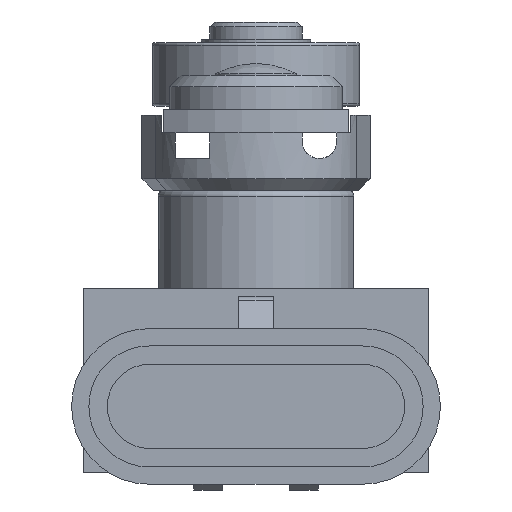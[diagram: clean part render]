
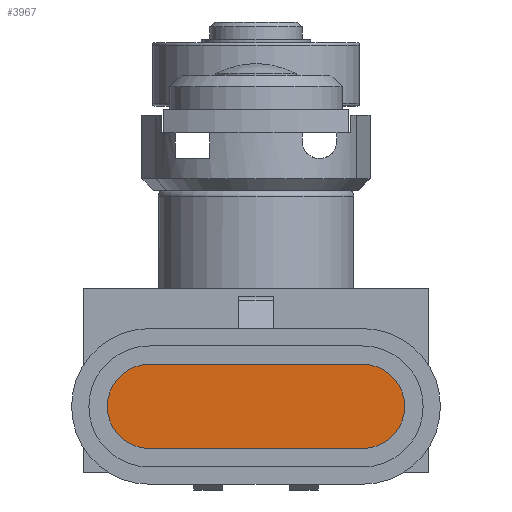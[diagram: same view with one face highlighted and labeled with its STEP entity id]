
A CAD part, front view. The second image highlights one B-rep face of the part: STEP entity #3967.
In plain terms, the highlighted planar face has unit normal (0, -1, 0) as drawn and (0, 0, -1) by its records, which use the part's own axes.
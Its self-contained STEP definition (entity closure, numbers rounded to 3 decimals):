
#143=LINE('',#6033,#543);
#147=LINE('',#6045,#547);
#543=VECTOR('',#4859,18.5);
#547=VECTOR('',#4871,18.5);
#870=PLANE('',#4259);
#1095=FACE_OUTER_BOUND('',#1338,.T.);
#1338=EDGE_LOOP('',(#2919,#2920,#2921,#2922));
#1590=CIRCLE('',#4254,3.65);
#1592=CIRCLE('',#4258,3.65);
#1806=VERTEX_POINT('',#6030);
#1807=VERTEX_POINT('',#6032);
#1809=VERTEX_POINT('',#6038);
#1811=VERTEX_POINT('',#6044);
#2225=EDGE_CURVE('',#1807,#1806,#143,.T.);
#2228=EDGE_CURVE('',#1809,#1807,#1590,.T.);
#2231=EDGE_CURVE('',#1811,#1809,#147,.T.);
#2234=EDGE_CURVE('',#1806,#1811,#1592,.T.);
#2919=ORIENTED_EDGE('',*,*,#2228,.T.);
#2920=ORIENTED_EDGE('',*,*,#2225,.T.);
#2921=ORIENTED_EDGE('',*,*,#2234,.T.);
#2922=ORIENTED_EDGE('',*,*,#2231,.T.);
#3967=ADVANCED_FACE('',(#1095),#870,.F.);
#4254=AXIS2_PLACEMENT_3D('',#6039,#4865,#4866);
#4258=AXIS2_PLACEMENT_3D('',#6049,#4877,#4878);
#4259=AXIS2_PLACEMENT_3D('',#6050,#4879,#4880);
#4859=DIRECTION('',(1.,0.,0.));
#4865=DIRECTION('center_axis',(0.,0.,-1.));
#4866=DIRECTION('ref_axis',(1.,0.,0.));
#4871=DIRECTION('',(-1.,0.,0.));
#4877=DIRECTION('center_axis',(0.,0.,-1.));
#4878=DIRECTION('ref_axis',(1.,0.,0.));
#4879=DIRECTION('center_axis',(0.,0.,1.));
#4880=DIRECTION('ref_axis',(1.,0.,0.));
#6030=CARTESIAN_POINT('',(9.25,-2.1,-60.5));
#6032=CARTESIAN_POINT('',(-9.25,-2.1,-60.5));
#6033=CARTESIAN_POINT('',(-9.25,-2.1,-60.5));
#6038=CARTESIAN_POINT('',(-9.25,-9.4,-60.5));
#6039=CARTESIAN_POINT('Origin',(-9.25,-5.75,-60.5));
#6044=CARTESIAN_POINT('',(9.25,-9.4,-60.5));
#6045=CARTESIAN_POINT('',(9.25,-9.4,-60.5));
#6049=CARTESIAN_POINT('Origin',(9.25,-5.75,-60.5));
#6050=CARTESIAN_POINT('Origin',(-9.25,-5.75,-60.5));
